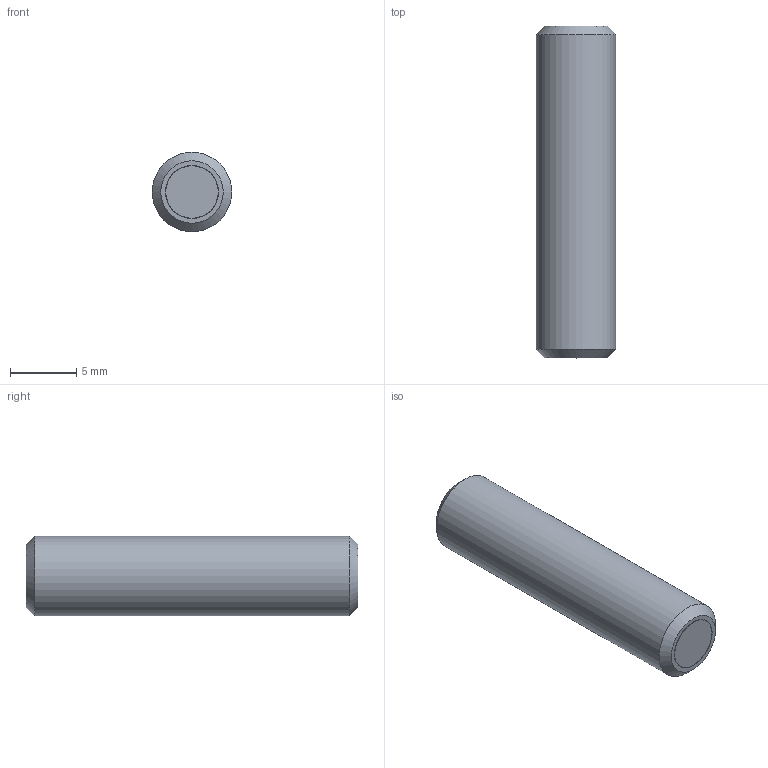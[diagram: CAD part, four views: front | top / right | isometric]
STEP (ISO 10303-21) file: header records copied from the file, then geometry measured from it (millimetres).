
FILE_DESCRIPTION(/* description */ ('STEP AP214'),/* implementation_level */ '2;1');
FILE_NAME(/* name */ 'Grub screw with retaining magnet GN 913.6-M6-25-ND',/* time_stamp */ '2023-10-03T11:26:13+02:00',/* author */ ('License CC BY-ND 4.0'),/* organization */ ('CADENAS'),/* preprocessor_version */ 'ST-DEVELOPER v19.3',/* originating_system */ 'PARTsolutions',/* authorisation */ ' ');
FILE_SCHEMA (('AUTOMOTIVE_DESIGN {1 0 10303 214 3 1 1}'));
Length unit declared in the file: millimetre
Products named in the file (1): Grub screw with retaining magnet GN 913.6-M6-25-ND
Bounding box: 6 x 25 x 6 mm (x, y, z)
Volume: 675.1 mm3; surface area: 543.8 mm2
Topology: 1 solids, 1 shells, 22 faces, 46 edges, 28 vertices
Faces by surface type: plane 16, cone 3, cylinder 3
Full cylindrical faces by diameter (mm): 3.96 x1, 4 x1, 6 x1
Entity records: 566 total; most frequent: DIRECTION 98, CARTESIAN_POINT 88, ORIENTED_EDGE 76, EDGE_CURVE 38, AXIS2_PLACEMENT_3D 37, FACE_BOUND 31, EDGE_LOOP 30, VERTEX_POINT 27
